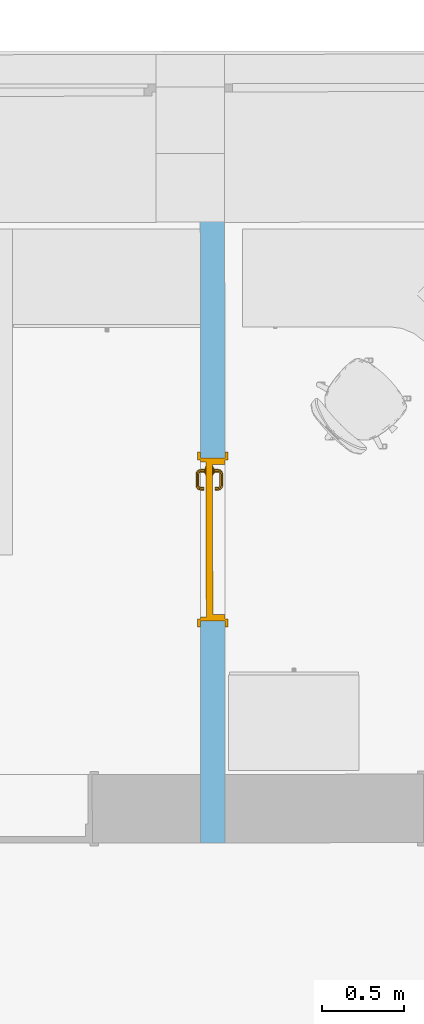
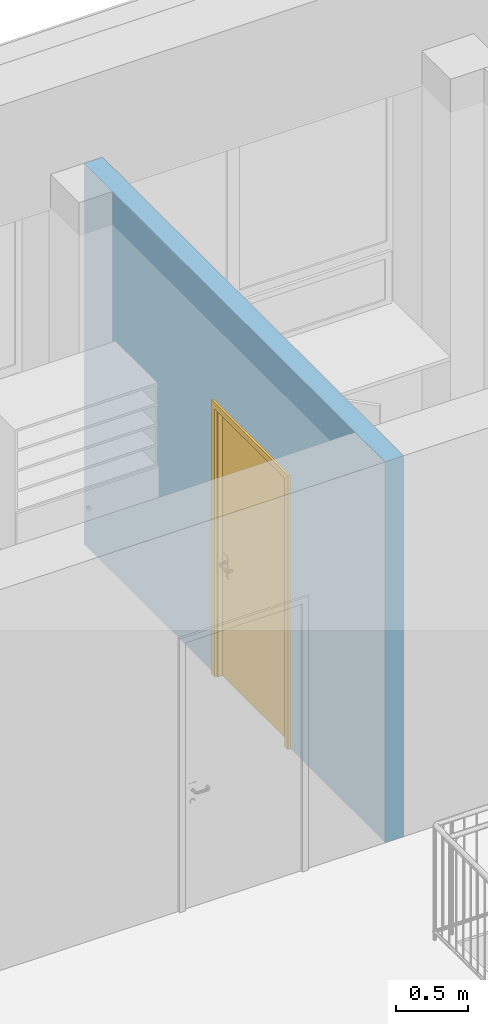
# One storey, part 53 of 194: 1 door, 1 opening, plus 1 element that does not belong to this part.
"""IFC2X3 building model written with IfcOpenShell, lengths in millimetres."""

import ifcopenshell
import ifcopenshell.guid

model = None  # the IFC model being written
_history = None  # IfcOwnerHistory: only IFC2X3 demands one
_inside = {}  # id of a spatial element -> (the spatial element, [elements in it])
_under = {}  # id of a project, library or spatial element -> (it, [spatial elements below it])
_declared = {}  # id of a project -> (the project, [libraries it declares])
_typed = {}  # id of a type object -> (the type object, [elements of that type])
_made_of = {}  # id of a material, layer set ... -> (it, [elements and type objects made of it])


def new_model(schema):
    """Start an empty IFC model of exactly this schema.

    Asked for "IFC4X3", IfcOpenShell would pick the latest addendum, in which some entities
    have other attributes; the version numbers below select the first issue.
    IFC2X3 requires an IfcOwnerHistory on every rooted entity: one is made here for all.
    """
    global model, _history
    if schema == "IFC4X3":
        model = ifcopenshell.file(schema_version=(4, 3, 0, 0))
    else:
        model = ifcopenshell.file(schema=schema)
    _inside.clear()
    _under.clear()
    _declared.clear()
    _typed.clear()
    _made_of.clear()
    _history = None
    if model.schema == "IFC2X3":
        org = make("IfcOrganization", Name="unknown")
        user = make(
            "IfcPersonAndOrganization",
            ThePerson=make("IfcPerson", FamilyName="unknown"),
            TheOrganization=org,
        )
        app = make(
            "IfcApplication",
            ApplicationDeveloper=org,
            Version="unknown",
            ApplicationFullName="unknown",
            ApplicationIdentifier="unknown",
        )
        _history = make(
            "IfcOwnerHistory",
            OwningUser=user,
            OwningApplication=app,
            ChangeAction="ADDED",
            CreationDate=0,
        )
    return model


def make(cls, **values):
    """One entity of the class cls with the attributes given. An attribute that is None is left unset."""
    return model.create_entity(
        cls, **{name: value for name, value in values.items() if value is not None}
    )


def entity(cls, *values):
    """Any entity or typed value of the class cls, its attributes in the order of the schema. None: left unset."""
    e = model.create_entity(cls)
    for i, value in enumerate(values):
        if value is not None:
            e[i] = value
    return e


def rooted(cls, **values):
    """An entity with a GlobalId (a new one), such as an element, a storey or a relation."""
    return make(cls, GlobalId=ifcopenshell.guid.new(), OwnerHistory=_history, **values)


def si_unit(unit_type, name, prefix=None):
    """IfcSIUnit, for example si_unit("LENGTHUNIT", "METRE", prefix="MILLI")."""
    return make("IfcSIUnit", UnitType=unit_type, Prefix=prefix, Name=name)


def converted_unit(unit_type, name, factor, base, dimensions=None, offset=None):
    """IfcConversionBasedUnit, such as the inch: factor (a typed value) times the base unit."""
    return make(
        "IfcConversionBasedUnit"
        if offset is None
        else "IfcConversionBasedUnitWithOffset",
        ConversionOffset=offset,
        Dimensions=None
        if dimensions is None
        else entity("IfcDimensionalExponents", *dimensions),
        UnitType=unit_type,
        Name=name,
        ConversionFactor=make(
            "IfcMeasureWithUnit", ValueComponent=factor, UnitComponent=base
        ),
    )


def derived_unit(unit_type, elements):
    """IfcDerivedUnit: a product of units, each with its exponent."""
    return make(
        "IfcDerivedUnit",
        Elements=[
            make("IfcDerivedUnitElement", Unit=unit, Exponent=power)
            for unit, power in elements
        ],
        UnitType=unit_type,
    )


def money_unit(currency):
    """IfcMonetaryUnit."""
    return make("IfcMonetaryUnit", Currency=currency)


def assignment(units):
    """IfcUnitAssignment: the units of a project."""
    return None if units is None else make("IfcUnitAssignment", Units=units)


def point(xyz):
    """IfcCartesianPoint."""
    return None if xyz is None else make("IfcCartesianPoint", Coordinates=xyz)


def direction(xyz):
    """IfcDirection."""
    return None if xyz is None else make("IfcDirection", DirectionRatios=xyz)


def frame(location, z_axis=None, x_axis=None):
    """IfcAxis2Placement3D, a coordinate frame: its origin and axes. An axis left out is left unset."""
    return make(
        "IfcAxis2Placement3D",
        Location=point(location),
        Axis=direction(z_axis),
        RefDirection=direction(x_axis),
    )


def frame_2d(location, x_axis=None):
    """IfcAxis2Placement2D, a coordinate frame in the plane: its origin and x axis."""
    return make(
        "IfcAxis2Placement2D", Location=point(location), RefDirection=direction(x_axis)
    )


def origin_with_axes():
    """The frame at (0, 0, 0) with the z axis (0, 0, 1) and the x axis (1, 0, 0) written out."""
    return frame((0.0, 0.0, 0.0), z_axis=(0.0, 0.0, 1.0), x_axis=(1.0, 0.0, 0.0))


def origin_2d_with_axis():
    """The frame at (0, 0) in the plane with the x axis (1, 0) written out."""
    return frame_2d((0.0, 0.0), x_axis=(1.0, 0.0))


def place(relative_to, where):
    """IfcLocalPlacement: puts the frame where relative to a parent placement (None: the world)."""
    return make(
        "IfcLocalPlacement", PlacementRelTo=relative_to, RelativePlacement=where
    )


def context(
    kind, dimensions, precision=None, world=None, true_north=None, identifier=None
):
    """IfcGeometricRepresentationContext, for example the 3D "Model" context."""
    return make(
        "IfcGeometricRepresentationContext",
        ContextIdentifier=identifier,
        ContextType=kind,
        CoordinateSpaceDimension=dimensions,
        Precision=precision,
        WorldCoordinateSystem=world,
        TrueNorth=true_north,
    )


def subcontext(parent, identifier, kind, view, scale=None):
    """IfcGeometricRepresentationSubContext, for example "Body" below "Model"."""
    return make(
        "IfcGeometricRepresentationSubContext",
        ContextIdentifier=identifier,
        ContextType=kind,
        ParentContext=parent,
        TargetScale=scale,
        TargetView=view,
    )


def project(units=None, contexts=None):
    """IfcProject with its units and contexts."""
    return rooted(
        "IfcProject",
        Name="project",
        RepresentationContexts=contexts,
        UnitsInContext=assignment(units),
    )


def spatial(cls, under=None, at=None, **own):
    """A site, building, storey or space (cls), placed at a placement, below another one or the project."""
    s = rooted(cls, ObjectPlacement=at, **own)
    if under is not None:
        _under.setdefault(under.id(), (under, []))[1].append(s)
    return s


def polyline(points):
    """IfcPolyline through the points."""
    return make("IfcPolyline", Points=[point(p) for p in points])


def profile(cls, at=None, kind="AREA", **sizes):
    """A parametric profile (cls). Its sizes go by their IFC names, for example OverallWidth=200.0."""
    return make(cls, ProfileType=kind, Position=at, **sizes)


def rectangle(**sizes):
    """IfcRectangleProfileDef."""
    return profile("IfcRectangleProfileDef", **sizes)


def outline(outer, holes=None, kind="AREA"):
    """IfcArbitraryClosedProfileDef: a profile drawn as a closed curve; with holes, ...WithVoids."""
    if holes is None:
        return make("IfcArbitraryClosedProfileDef", ProfileType=kind, OuterCurve=outer)
    return make(
        "IfcArbitraryProfileDefWithVoids",
        ProfileType=kind,
        OuterCurve=outer,
        InnerCurves=holes,
    )


def extrude(swept, where, along, depth):
    """IfcExtrudedAreaSolid: the profile swept, set in the frame where, extruded along a direction by depth."""
    return make(
        "IfcExtrudedAreaSolid",
        SweptArea=swept,
        Position=where,
        ExtrudedDirection=direction(along),
        Depth=depth,
    )


def faces_of(points, faces, orient=None, outer=None):
    """IfcFace entities. A face is a list of loops; a loop is a list of indices into points, from 0.

    orient and outer hold one flag for each loop. By default every Orientation is true, the
    first loop of a face is its IfcFaceOuterBound and the others are IfcFaceBound.
    """
    made = []
    for i, loops in enumerate(faces):
        bounds = []
        for j, loop in enumerate(loops):
            is_outer = j == 0 if outer is None else outer[i][j]
            bounds.append(
                make(
                    "IfcFaceOuterBound" if is_outer else "IfcFaceBound",
                    Bound=make("IfcPolyLoop", Polygon=[points[k] for k in loop]),
                    Orientation=True if orient is None else orient[i][j],
                )
            )
        made.append(make("IfcFace", Bounds=bounds))
    return made


def open_shell(faces, orient=None, outer=None):
    """The faces of one IfcOpenShell. surface_model builds it on its shared points."""
    return ("IfcOpenShell", faces, orient, outer)


def faceted_brep(points, faces, orient=None, outer=None, voids=None):
    """IfcFacetedBrep: a solid bounded by flat faces; with voids (closed shells), ...WithVoids."""
    shared = [point(p) for p in points]
    hull = make("IfcClosedShell", CfsFaces=faces_of(shared, faces, orient, outer))
    if voids is None:
        return make("IfcFacetedBrep", Outer=hull)
    return make(
        "IfcFacetedBrepWithVoids",
        Outer=hull,
        Voids=[
            make(cls, CfsFaces=faces_of(shared, fs, o, b)) for cls, fs, o, b in voids
        ],
    )


def surface_model(cls, points, shells):
    """IfcFaceBasedSurfaceModel or IfcShellBasedSurfaceModel (cls): surfaces that need not close."""
    shared = [point(p) for p in points]
    made = [make(c, CfsFaces=faces_of(shared, fs, o, b)) for c, fs, o, b in shells]
    if cls == "IfcFaceBasedSurfaceModel":
        return make(cls, FbsmFaces=made)
    return make(cls, SbsmBoundary=made)


def shape(context_of_items, identifier, shape_type, items):
    """IfcShapeRepresentation: the items that make up one representation, for example the "Body"."""
    return make(
        "IfcShapeRepresentation",
        ContextOfItems=context_of_items,
        RepresentationIdentifier=identifier,
        RepresentationType=shape_type,
        Items=items,
    )


def material(Name=None, Category=None):
    """IfcMaterial."""
    return make("IfcMaterial", Name=Name, Category=Category)


def layer(
    of_material, thickness, ventilated=None, Name=None, Category=None, Priority=None
):
    """IfcMaterialLayer: one layer of a wall or slab, of a material (None: an air gap)."""
    return make(
        "IfcMaterialLayer",
        Material=of_material,
        LayerThickness=thickness,
        IsVentilated=ventilated,
        Name=Name,
        Category=Category,
        Priority=Priority,
    )


def layer_set(layers, Name=None):
    """IfcMaterialLayerSet."""
    return make("IfcMaterialLayerSet", MaterialLayers=layers, LayerSetName=Name)


def layer_usage(for_layer_set, set_direction, sense, offset, extent=None):
    """IfcMaterialLayerSetUsage: how a layer set lies in its element."""
    return make(
        "IfcMaterialLayerSetUsage",
        ForLayerSet=for_layer_set,
        LayerSetDirection=set_direction,
        DirectionSense=sense,
        OffsetFromReferenceLine=offset,
        ReferenceExtent=extent,
    )


def made_of(thing, what):
    """Note that an element or type object is made of a material, layer set ...; save() writes the relation."""
    if what is not None:
        _made_of.setdefault(what.id(), (what, []))[1].append(thing)
    return thing


def type_object(cls, material=None, **own):
    """A type object (cls), such as IfcWallType, which elements share."""
    return made_of(rooted(cls, **own), material)


def element(
    cls,
    number,
    at=None,
    inside=None,
    cuts=None,
    type_object=None,
    material=None,
    context=None,
    identifier="Body",
    shape_type=None,
    held_by="IfcProductDefinitionShape",
    body=None,
    shapes=None,
    **own,
):
    """One element of the class cls, such as IfcWall. Its Tag is "e" and its number.

    at: its placement. inside: the storey or other place that contains it. cuts: it is an
    opening in that element (IfcRelVoidsElement). A single representation is given by context,
    identifier, shape_type and body (its items); several are given by shapes. held_by: the class
    of the entity that holds the representations. save() writes the other relations.
    """
    e = rooted(cls, Tag="e%d" % number, ObjectPlacement=at, **own)
    if body is not None:
        shapes = [shape(context, identifier, shape_type, body)]
    if shapes is not None:
        e.Representation = make(held_by, Representations=shapes)
    if inside is not None:
        _inside.setdefault(inside.id(), (inside, []))[1].append(e)
    if cuts is not None:
        rooted(
            "IfcRelVoidsElement", RelatingBuildingElement=cuts, RelatedOpeningElement=e
        )
    if type_object is not None:
        _typed.setdefault(type_object.id(), (type_object, []))[1].append(e)
    return made_of(e, material)


def fill(opening, filler):
    """IfcRelFillsElement: the door or window that sits in an opening."""
    return rooted(
        "IfcRelFillsElement",
        RelatingOpeningElement=opening,
        RelatedBuildingElement=filler,
    )


def aggregate(whole, parts):
    """IfcRelAggregates: a whole, such as a stair, and the parts it consists of."""
    return rooted("IfcRelAggregates", RelatingObject=whole, RelatedObjects=parts)


def save(model, path):
    """Write the relations noted so far, then the file.

    IfcRelAggregates (storeys below a building ...), IfcRelContainedInSpatialStructure (elements
    in a storey), IfcRelDefinesByType, IfcRelAssociatesMaterial and IfcRelDeclares: one each for
    every whole, place, type object, material and project.
    """
    for whole, parts in _under.values():
        aggregate(whole, parts)
    for where, things in _inside.values():
        rooted(
            "IfcRelContainedInSpatialStructure",
            RelatedElements=things,
            RelatingStructure=where,
        )
    for kind, things in _typed.values():
        rooted("IfcRelDefinesByType", RelatedObjects=things, RelatingType=kind)
    for what, things in _made_of.values():
        rooted("IfcRelAssociatesMaterial", RelatedObjects=things, RelatingMaterial=what)
    for by, libraries in _declared.values():
        rooted("IfcRelDeclares", RelatingContext=by, RelatedDefinitions=libraries)
    model.write(path)


model = new_model("IFC2X3")

# Units and contexts
model_context = context("Model", 3, precision=1e-05, world=origin_with_axes(), true_north=direction((0.0, 1.0)))
body_context = subcontext(model_context, "Body", "Model", "MODEL_VIEW")
ifc_project = project(units=[si_unit("LENGTHUNIT", "METRE", prefix="MILLI"), si_unit("AREAUNIT", "SQUARE_METRE"), si_unit("VOLUMEUNIT", "CUBIC_METRE"), converted_unit("PLANEANGLEUNIT", "DEGREE", entity("IfcPlaneAngleMeasure", 0.0174532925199), si_unit("PLANEANGLEUNIT", "RADIAN"), dimensions=[0, 0, 0, 0, 0, 0, 0]), si_unit("SOLIDANGLEUNIT", "STERADIAN"), money_unit("EUR"), converted_unit("TIMEUNIT", "Year", entity("IfcTimeMeasure", 31556926.0), si_unit("TIMEUNIT", "SECOND"), dimensions=[0, 0, 1, 0, 0, 0, 0]), si_unit("MASSUNIT", "GRAM", prefix="KILO"), si_unit("THERMODYNAMICTEMPERATUREUNIT", "DEGREE_CELSIUS"), si_unit("LUMINOUSINTENSITYUNIT", "LUMEN"), si_unit("ENERGYUNIT", "JOULE", prefix="MEGA"), derived_unit("THERMALCONDUCTANCEUNIT", [(si_unit("POWERUNIT", "WATT"), 1), (si_unit("LENGTHUNIT", "METRE"), -1), (si_unit("THERMODYNAMICTEMPERATUREUNIT", "KELVIN"), -1)]), derived_unit("SPECIFICHEATCAPACITYUNIT", [(si_unit("ENERGYUNIT", "JOULE"), 1), (si_unit("MASSUNIT", "GRAM", prefix="KILO"), -1), (si_unit("THERMODYNAMICTEMPERATUREUNIT", "KELVIN"), -1)]), derived_unit("MASSDENSITYUNIT", [(si_unit("MASSUNIT", "GRAM", prefix="KILO"), 1), (si_unit("VOLUMEUNIT", "CUBIC_METRE"), -1)])], contexts=[model_context])

# Site, building, storey
site_placement = place(None, origin_with_axes())
site = spatial("IfcSite", under=ifc_project, at=site_placement, Name="Site", CompositionType="ELEMENT")
building_placement = place(site_placement, origin_with_axes())
building = spatial("IfcBuilding", under=site, at=building_placement, Name="Building", CompositionType="ELEMENT")
storey_placement = place(building_placement, frame((0.0, 0.0, 3000.0), z_axis=(0.0, 0.0, 1.0), x_axis=(1.0, 0.0, 0.0)))
storey = spatial("IfcBuildingStorey", under=building, at=storey_placement, Name="2 KORRUS", CompositionType="ELEMENT", Elevation=3000.0)

# Wall, opening, door
ifc_material = material(Name="Kivi -Ol.Olev Konstruktsioon")
ifc_layer = layer(ifc_material, 150.0, ventilated="UNKNOWN")
ifc_layer_set = layer_set([ifc_layer], Name="ol.olev ss 150")
ifc_layer_usage = layer_usage(ifc_layer_set, "AXIS2", "POSITIVE", -150.0)
wall_type = type_object("IfcWallType", Name="SW - 022", PredefinedType="NOTDEFINED")
wall_placement = place(storey_placement, frame((25153.7376611, 47300.7191622, 0.0), z_axis=(0.0, 0.0, 1.0), x_axis=(0.000797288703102, -0.999999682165, 0.0)))
wall = element("IfcWallStandardCase", 1, at=wall_placement, inside=storey, type_object=wall_type, material=ifc_layer_usage, Name="ol.olev ss 150", context=body_context, shape_type="SweptSolid", body=[
    extrude(outline(polyline([(430.121237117, -150.0), (4634.98322566, -150.0), (4634.98322566, 0.0), (430.000140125, 1.13686837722e-10), (430.121237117, -150.0)])), origin_with_axes(), (0.0, 0.0, 1.0), 3250.0),
])
opening_placement = place(wall_placement, frame((2775.60504922, 1.13686837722e-10, 0.0), z_axis=(0.0, 0.0, 1.0), x_axis=(1.0, 0.0, 0.0)))
opening = element("IfcOpeningElement", 2, at=opening_placement, cuts=wall, Name="Siseuks * Door 22", context=body_context, shape_type="SweptSolid", body=[
    extrude(rectangle(XDim=1000.0, YDim=2300.0, at=origin_2d_with_axis()), frame((-9.09494701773e-10, -150.0, 1150.0), z_axis=(0.0, -1.0, 0.0), x_axis=(1.0, 0.0, 0.0)), (0.0, 0.0, -1.0), 450.0),
    extrude(rectangle(XDim=1074.0, YDim=2337.0, at=origin_2d_with_axis()), frame((0.0, -150.0, 1168.5), z_axis=(0.0, -1.0, 0.0), x_axis=(1.0, 0.0, 0.0)), (0.0, 0.0, 1.0), 150.0),
    extrude(rectangle(XDim=1074.0, YDim=2337.0, at=origin_2d_with_axis()), frame((0.0, 0.0, 1168.5), z_axis=(0.0, 1.0, 0.0), x_axis=(1.0, 0.0, 0.0)), (0.0, 0.0, 1.0), 150.0),
])
door_style = type_object("IfcDoorStyle", Name="SU-B207A   1\xa0000×2\xa0300", ConstructionType="NOTDEFINED", OperationType="SINGLE_SWING_LEFT", ParameterTakesPrecedence=False, Sizeable=False)
door_placement = place(opening_placement, frame((499.999999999, -2.27373675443e-10, 0.0), z_axis=(0.0, 0.0, 1.0), x_axis=(-1.0, 0.0, 0.0)))
door = element("IfcDoor", 3, at=door_placement, inside=storey, type_object=door_style, Name="Siseuks * Door 22", OverallHeight=2300.0, OverallWidth=1000.0, context=body_context, shape_type="SurfaceModel", body=[
    faceted_brep([(1000.0, 115.0, 0.0), (975.000000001, 115.0, 0.0), (975.0, 150.0, 0.0), (1000.0, 150.0, 0.0), (1000.0, 115.0, 2300.0), (975.000000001, 115.0, 2275.0), (975.0, 150.0, 2275.0), (1000.0, 150.0, 2300.0)], [[[0, 1, 2, 3]], [[0, 4, 5, 1]], [[1, 5, 6, 2]], [[3, 2, 6, 7]], [[4, 0, 3, 7]], [[5, 4, 7, 6]]]),
    faceted_brep([(0.0, 115.0, 2300.0), (24.9999999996, 115.0, 2275.0), (24.9999999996, 150.0, 2275.0), (0.0, 150.0, 2300.0), (0.0, 115.0, 0.0), (24.9999999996, 115.0, 0.0), (24.9999999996, 150.0, 0.0), (0.0, 150.0, 0.0)], [[[0, 1, 2, 3]], [[0, 4, 5, 1]], [[1, 5, 6, 2]], [[3, 2, 6, 7]], [[4, 0, 3, 7]], [[5, 4, 7, 6]]]),
    faceted_brep([(975.000000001, 115.0, 2275.0), (24.9999999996, 115.0, 2275.0), (24.9999999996, 150.0, 2275.0), (975.0, 150.0, 2275.0), (1000.0, 115.0, 2300.0), (0.0, 115.0, 2300.0), (0.0, 150.0, 2300.0), (1000.0, 150.0, 2300.0)], [[[0, 1, 2, 3]], [[0, 4, 5, 1]], [[1, 5, 6, 2]], [[3, 2, 6, 7]], [[4, 0, 3, 7]], [[5, 4, 7, 6]]]),
    faceted_brep([(1037.0, 169.0, 0.0), (1037.0, 150.0, 0.0), (987.0, 150.0, 0.0), (987.000000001, 169.0, 0.0), (1037.0, 169.0, 2337.0), (1037.0, 150.0, 2337.0), (987.0, 150.0, 2287.0), (987.000000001, 169.0, 2287.0)], [[[0, 1, 2, 3]], [[4, 5, 1, 0]], [[1, 5, 6, 2]], [[3, 2, 6, 7]], [[0, 3, 7, 4]], [[7, 6, 5, 4]]]),
    faceted_brep([(-36.9999999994, 169.0, 2337.0), (-36.9999999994, 150.0, 2337.0), (13.0000000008, 150.0, 2287.0), (13.0000000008, 169.0, 2287.0), (-36.9999999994, 169.0, 0.0), (-36.9999999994, 150.0, 0.0), (13.0000000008, 150.0, 0.0), (13.0000000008, 169.0, 0.0)], [[[0, 1, 2, 3]], [[4, 5, 1, 0]], [[1, 5, 6, 2]], [[3, 2, 6, 7]], [[0, 3, 7, 4]], [[7, 6, 5, 4]]]),
    faceted_brep([(1037.0, 169.0, 2337.0), (1037.0, 150.0, 2337.0), (987.0, 150.0, 2287.0), (987.000000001, 169.0, 2287.0), (-36.9999999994, 169.0, 2337.0), (-36.9999999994, 150.0, 2337.0), (13.0000000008, 150.0, 2287.0), (13.0000000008, 169.0, 2287.0)], [[[0, 1, 2, 3]], [[4, 5, 1, 0]], [[1, 5, 6, 2]], [[3, 2, 6, 7]], [[0, 3, 7, 4]], [[7, 6, 5, 4]]]),
    faceted_brep([(1037.0, -18.9999999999, 0.0), (987.0, -19.0, 0.0), (987.0, 0.0, 0.0), (1037.0, -1.13686837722e-10, 0.0), (1037.0, -18.9999999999, 2337.0), (987.0, -19.0, 2287.0), (987.0, 0.0, 2287.0), (1037.0, -1.13686837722e-10, 2337.0)], [[[0, 1, 2, 3]], [[0, 4, 5, 1]], [[1, 5, 6, 2]], [[3, 2, 6, 7]], [[4, 0, 3, 7]], [[5, 4, 7, 6]]]),
    faceted_brep([(-36.9999999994, -19.0, 2337.0), (13.0000000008, -19.0000000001, 2287.0), (13.0000000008, 0.0, 2287.0), (-36.9999999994, 0.0, 2337.0), (-36.9999999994, -19.0, 0.0), (13.0000000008, -19.0000000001, 0.0), (13.0000000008, 0.0, 0.0), (-36.9999999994, 0.0, 0.0)], [[[0, 1, 2, 3]], [[0, 4, 5, 1]], [[1, 5, 6, 2]], [[3, 2, 6, 7]], [[4, 0, 3, 7]], [[5, 4, 7, 6]]]),
    faceted_brep([(1037.0, -18.9999999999, 2337.0), (987.0, -19.0, 2287.0), (987.0, 0.0, 2287.0), (1037.0, -1.13686837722e-10, 2337.0), (-36.9999999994, -19.0, 2337.0), (13.0000000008, -19.0000000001, 2287.0), (13.0000000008, 0.0, 2287.0), (-36.9999999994, 0.0, 2337.0)], [[[0, 1, 2, 3]], [[0, 4, 5, 1]], [[1, 5, 6, 2]], [[3, 2, 6, 7]], [[4, 0, 3, 7]], [[5, 4, 7, 6]]]),
    faceted_brep([(960.0, 74.9999999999, 0.0), (960.000000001, 0.0, 0.0), (960.000000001, 0.0, 2260.0), (960.0, 74.9999999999, 2260.0), (972.000000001, 75.0, 0.0), (972.000000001, 115.0, 0.0), (1000.0, 115.0, 0.0), (1000.0, 0.0, 0.0), (1000.0, 0.0, 2260.0), (972.000000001, 75.0, 2260.0), (1000.0, 115.0, 2260.0), (972.000000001, 115.0, 2260.0)], [[[0, 1, 2, 3]], [[4, 5, 6, 7, 1, 0]], [[1, 7, 8, 2]], [[9, 3, 2, 8, 10, 11]], [[9, 4, 0, 3]], [[11, 5, 4, 9]], [[11, 10, 6, 5]], [[6, 10, 8, 7]]]),
    faceted_brep([(28.0000000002, 75.0, 2260.0), (28.0000000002, 115.0, 2260.0), (0.0, 115.0, 2260.0), (0.0, 0.0, 2260.0), (40.0, 0.0, 2260.0), (40.0, 75.0, 2260.0), (28.0000000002, 75.0, 0.0), (28.0000000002, 115.0, 0.0), (0.0, 115.0, 0.0), (0.0, 0.0, 0.0), (40.0, 0.0, 0.0), (40.0, 75.0, 0.0)], [[[0, 1, 2, 3, 4, 5]], [[0, 6, 7, 1]], [[7, 8, 2, 1]], [[2, 8, 9, 3]], [[3, 9, 10, 4]], [[5, 4, 10, 11]], [[5, 11, 6, 0]], [[6, 11, 10, 9, 8, 7]]]),
    faceted_brep([(972.000000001, 115.0, 2272.0), (28.0000000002, 115.0, 2272.0), (28.0000000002, 115.0, 2260.0), (0.0, 115.0, 2260.0), (0.0, 115.0, 2300.0), (1000.0, 115.0, 2300.0), (1000.0, 115.0, 2260.0), (972.000000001, 115.0, 2260.0), (972.000000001, 75.0, 2272.0), (28.0000000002, 75.0, 2272.0), (28.0000000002, 75.0, 2260.0), (40.0, 75.0, 2260.0), (40.0, 0.0, 2260.0), (0.0, 0.0, 2260.0), (0.0, 0.0, 2300.0), (1000.0, 0.0, 2300.0), (1000.0, 0.0, 2260.0), (972.000000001, 75.0, 2260.0), (960.000000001, 0.0, 2260.0), (960.0, 74.9999999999, 2260.0)], [[[0, 1, 2, 3, 4, 5, 6, 7]], [[0, 8, 9, 1]], [[1, 9, 10, 2]], [[10, 11, 12, 13, 3, 2]], [[4, 3, 13, 14]], [[5, 4, 14, 15]], [[6, 5, 15, 16]], [[17, 7, 6, 16, 18, 19]], [[7, 17, 8, 0]], [[10, 9, 8, 17, 19, 11]], [[19, 18, 12, 11]], [[12, 18, 16, 15, 14, 13]]]),
    faceted_brep([(950.5, 75.0, 1060.0), (893.5, 75.0, 1060.0), (893.500000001, 72.0, 1060.0), (950.5, 72.0, 1060.0), (950.5, 75.0, 870.0), (893.5, 75.0, 870.0), (893.500000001, 72.0, 870.0), (950.5, 72.0, 870.0)], [[[0, 1, 2, 3]], [[0, 4, 5, 1]], [[1, 5, 6, 2]], [[3, 2, 6, 7]], [[4, 0, 3, 7]], [[5, 4, 7, 6]]]),
    surface_model("IfcShellBasedSurfaceModel", [(912.000000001, 62.0, 1000.0), (914.928932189, 62.0, 992.928932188), (914.928932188, 42.6964393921, 992.928932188), (912.0, 42.9849140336, 1000.0), (922.0, 62.0, 990.0), (922.0, 42.0, 990.0), (913.816790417, 37.1053251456, 992.928932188), (911.057796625, 38.2481377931, 1000.0), (914.928932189, 62.0, 1007.07106781), (914.928932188, 42.6964393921, 1007.07106781), (929.071067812, 61.9999999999, 992.928932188), (929.071067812, 41.303560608, 992.928932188), (920.477590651, 34.3463313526, 990.0), (911.044179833, 32.9558201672, 992.928932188), (908.932537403, 35.0674625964, 1000.0), (913.816790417, 37.1053251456, 1007.07106781), (922.0, 62.0, 1010.0), (922.0, 42.0, 1010.0), (932.000000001, 62.0, 1000.0), (932.0, 41.0150859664, 1000.0), (927.138390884, 31.5873375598, 992.928932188), (916.142135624, 27.8578643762, 990.0), (906.894674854, 30.1832095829, 992.928932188), (905.751862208, 32.9422033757, 1000.0), (911.044179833, 32.9558201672, 1007.07106781), (920.477590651, 34.3463313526, 1010.0), (929.071067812, 61.9999999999, 1007.07106781), (929.071067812, 41.303560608, 1007.07106781), (929.897384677, 30.4445249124, 1000.0), (921.240091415, 22.7599085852, 992.928932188), (909.653668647, 23.5224093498, 990.0), (901.303560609, 29.0710678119, 992.928932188), (901.015085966, 31.9999999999, 1000.0), (906.894674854, 30.1832095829, 1007.07106781), (916.142135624, 27.8578643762, 1010.0), (927.138390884, 31.5873375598, 1007.07106781), (923.351733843, 20.6482661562, 1000.0), (912.41266244, 16.8616091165, 992.928932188), (902.0, 21.9999999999, 990.0), (832.696439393, 29.0710678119, 992.928932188), (832.984914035, 32.0, 1000.0), (901.303560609, 29.0710678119, 1007.07106781), (909.653668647, 23.5224093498, 1010.0), (921.240091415, 22.7599085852, 1007.07106781), (913.555475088, 14.1026153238, 1000.0), (902.696439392, 14.9289321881, 992.928932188), (832.000000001, 22.0, 990.0), (827.105325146, 30.1832095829, 992.928932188), (828.248137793, 32.9422033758, 1000.0), (832.696439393, 29.0710678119, 1007.07106781), (902.0, 21.9999999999, 1010.0), (912.41266244, 16.8616091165, 1007.07106781), (902.984914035, 12.0000000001, 1000.0), (831.303560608, 14.928932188, 992.928932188), (824.346331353, 23.5224093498, 990.0), (822.955820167, 32.9558201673, 992.928932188), (825.067462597, 35.0674625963, 1000.0), (827.105325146, 30.1832095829, 1007.07106781), (832.000000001, 22.0, 1010.0), (902.696439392, 14.9289321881, 1007.07106781), (831.015085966, 11.9999999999, 1000.0), (821.58733756, 16.8616091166, 992.928932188), (817.857864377, 27.8578643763, 990.0), (820.183209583, 37.1053251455, 992.928932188), (822.942203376, 38.2481377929, 1000.0), (822.955820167, 32.9558201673, 1007.07106781), (824.346331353, 23.5224093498, 1010.0), (831.303560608, 14.928932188, 1007.07106781), (820.444524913, 14.1026153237, 1000.0), (812.759908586, 22.7599085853, 992.928932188), (813.52240935, 34.3463313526, 990.0), (819.071067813, 42.6964393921, 992.928932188), (822.0, 42.9849140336, 1000.0), (820.183209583, 37.1053251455, 1007.07106781), (817.857864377, 27.8578643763, 1010.0), (821.58733756, 16.8616091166, 1007.07106781), (810.648266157, 20.6482661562, 1000.0), (806.861609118, 31.5873375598, 992.928932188), (812.000000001, 41.9999999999, 990.0), (819.071067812, 62.0, 992.928932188), (822.0, 62.0, 1000.0), (819.071067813, 42.6964393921, 1007.07106781), (813.52240935, 34.3463313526, 1010.0), (812.759908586, 22.7599085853, 1007.07106781), (804.102615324, 30.4445249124, 1000.0), (804.928932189, 41.303560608, 992.928932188), (812.0, 61.9999999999, 990.0), (804.928932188, 61.9999999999, 992.928932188), (802.000000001, 62.0, 1000.0), (804.928932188, 61.9999999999, 1007.07106781), (812.0, 61.9999999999, 1010.0), (819.071067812, 62.0, 1007.07106781), (812.000000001, 41.9999999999, 1010.0), (806.861609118, 31.5873375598, 1007.07106781), (802.000000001, 41.0150859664, 1000.0), (804.928932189, 41.303560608, 1007.07106781)], [open_shell([[[0, 1, 2, 3]], [[1, 4, 5, 2]], [[3, 2, 6, 7]], [[8, 0, 3, 9]], [[4, 10, 11, 5]], [[2, 5, 12, 6]], [[7, 6, 13, 14]], [[9, 3, 7, 15]], [[16, 8, 9, 17]], [[10, 18, 19, 11]], [[5, 11, 20, 12]], [[6, 12, 21, 13]], [[14, 13, 22, 23]], [[15, 7, 14, 24]], [[17, 9, 15, 25]], [[26, 16, 17, 27]], [[18, 26, 27, 19]], [[11, 19, 28, 20]], [[12, 20, 29, 21]], [[13, 21, 30, 22]], [[23, 22, 31, 32]], [[24, 14, 23, 33]], [[25, 15, 24, 34]], [[27, 17, 25, 35]], [[19, 27, 35, 28]], [[20, 28, 36, 29]], [[21, 29, 37, 30]], [[22, 30, 38, 31]], [[32, 31, 39, 40]], [[33, 23, 32, 41]], [[34, 24, 33, 42]], [[35, 25, 34, 43]], [[28, 35, 43, 36]], [[29, 36, 44, 37]], [[30, 37, 45, 38]], [[31, 38, 46, 39]], [[40, 39, 47, 48]], [[41, 32, 40, 49]], [[42, 33, 41, 50]], [[43, 34, 42, 51]], [[36, 43, 51, 44]], [[37, 44, 52, 45]], [[38, 45, 53, 46]], [[39, 46, 54, 47]], [[48, 47, 55, 56]], [[49, 40, 48, 57]], [[50, 41, 49, 58]], [[51, 42, 50, 59]], [[44, 51, 59, 52]], [[45, 52, 60, 53]], [[46, 53, 61, 54]], [[47, 54, 62, 55]], [[56, 55, 63, 64]], [[57, 48, 56, 65]], [[58, 49, 57, 66]], [[59, 50, 58, 67]], [[52, 59, 67, 60]], [[53, 60, 68, 61]], [[54, 61, 69, 62]], [[55, 62, 70, 63]], [[64, 63, 71, 72]], [[65, 56, 64, 73]], [[66, 57, 65, 74]], [[67, 58, 66, 75]], [[60, 67, 75, 68]], [[61, 68, 76, 69]], [[62, 69, 77, 70]], [[63, 70, 78, 71]], [[72, 71, 79, 80]], [[73, 64, 72, 81]], [[74, 65, 73, 82]], [[75, 66, 74, 83]], [[68, 75, 83, 76]], [[69, 76, 84, 77]], [[70, 77, 85, 78]], [[71, 78, 86, 79]], [[80, 79, 86, 87, 88, 89, 90, 91]], [[81, 72, 80, 91]], [[82, 73, 81, 92]], [[83, 74, 82, 93]], [[76, 83, 93, 84]], [[77, 84, 94, 85]], [[78, 85, 87, 86]], [[85, 94, 88, 87]], [[94, 95, 89, 88]], [[95, 92, 90, 89]], [[92, 81, 91, 90]], [[93, 82, 92, 95]], [[84, 93, 95, 94]]])]),
    faceted_brep([(911.607695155, 62.0, 994.0), (910.000000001, 61.9999999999, 1000.0), (909.000000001, 72.0, 1000.0), (910.741669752, 71.9999999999, 993.5), (916.0, 62.0, 989.607695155), (922.0, 62.0, 988.0), (928.000000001, 62.0, 989.607695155), (932.392304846, 62.0, 994.0), (934.0, 61.9999999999, 1000.0), (932.392304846, 62.0, 1006.0), (928.000000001, 62.0, 1010.39230485), (922.0, 62.0, 1012.0), (916.0, 62.0, 1010.39230485), (911.607695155, 62.0, 1006.0), (910.741669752, 71.9999999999, 1006.5), (915.500000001, 72.0, 1011.25833025), (922.0, 72.0, 1013.0), (928.500000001, 72.0, 1011.25833025), (933.25833025, 72.0, 1006.5), (935.0, 71.9999999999, 1000.0), (933.25833025, 72.0, 993.5), (928.500000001, 72.0, 988.741669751), (922.0, 72.0, 987.0), (915.500000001, 72.0, 988.741669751)], [[[0, 1, 2, 3]], [[1, 0, 4, 5, 6, 7, 8, 9, 10, 11, 12, 13]], [[1, 13, 14, 2]], [[2, 14, 15, 16, 17, 18, 19, 20, 21, 22, 23, 3]], [[4, 0, 3, 23]], [[5, 4, 23, 22]], [[6, 5, 22, 21]], [[7, 6, 21, 20]], [[8, 7, 20, 19]], [[9, 8, 19, 18]], [[10, 9, 18, 17]], [[11, 10, 17, 16]], [[12, 11, 16, 15]], [[13, 12, 15, 14]]]),
    faceted_brep([(904.679491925, 68.0, 895.0), (902.0, 68.0000000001, 905.0), (900.000000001, 72.0, 905.0), (902.947441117, 72.0000000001, 894.0), (912.0, 68.0, 887.679491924), (922.0, 68.0, 885.0), (932.000000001, 68.0000000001, 887.679491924), (939.320508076, 67.9999999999, 895.0), (942.000000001, 68.0, 905.0), (939.320508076, 67.9999999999, 915.0), (932.000000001, 68.0000000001, 922.320508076), (922.0, 68.0, 925.0), (912.0, 68.0, 922.320508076), (904.679491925, 68.0, 915.0), (902.947441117, 72.0000000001, 916.0), (911.0, 72.0, 924.052558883), (922.0, 72.0, 927.0), (933.0, 72.0, 924.052558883), (941.052558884, 72.0, 916.0), (944.0, 72.0, 905.0), (941.052558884, 72.0, 894.0), (933.0, 72.0, 885.947441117), (922.0, 72.0, 883.0), (911.0, 72.0, 885.947441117)], [[[0, 1, 2, 3]], [[1, 0, 4, 5, 6, 7, 8, 9, 10, 11, 12, 13]], [[1, 13, 14, 2]], [[2, 14, 15, 16, 17, 18, 19, 20, 21, 22, 23, 3]], [[4, 0, 3, 23]], [[5, 4, 23, 22]], [[6, 5, 22, 21]], [[7, 6, 21, 20]], [[8, 7, 20, 19]], [[9, 8, 19, 18]], [[10, 9, 18, 17]], [[11, 10, 17, 16]], [[12, 11, 16, 15]], [[13, 12, 15, 14]]]),
    faceted_brep([(917.050252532, 65.9999999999, 909.050252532), (915.000000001, 65.9999999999, 914.0), (914.000000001, 68.0, 914.0), (916.343145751, 68.0, 908.343145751), (922.0, 66.0, 907.0), (926.949747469, 65.9999999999, 909.050252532), (929.0, 66.0, 914.0), (926.949747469, 65.9999999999, 918.949747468), (922.0, 66.0, 921.0), (917.050252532, 65.9999999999, 918.949747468), (916.343145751, 68.0, 919.656854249), (922.0, 68.0, 922.0), (927.65685425, 67.9999999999, 919.656854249), (930.0, 67.9999999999, 914.0), (927.65685425, 67.9999999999, 908.343145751), (922.0, 68.0, 906.0)], [[[0, 1, 2, 3]], [[1, 0, 4, 5, 6, 7, 8, 9]], [[1, 9, 10, 2]], [[2, 10, 11, 12, 13, 14, 15, 3]], [[4, 0, 3, 15]], [[5, 4, 15, 14]], [[6, 5, 14, 13]], [[7, 6, 13, 12]], [[8, 7, 12, 11]], [[9, 8, 11, 10]]]),
    faceted_brep([(950.5, 115.0, 1060.0), (950.5, 118.0, 1060.0), (893.500000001, 118.0, 1060.0), (893.5, 115.0, 1060.0), (950.5, 115.0, 870.0), (950.5, 118.0, 870.0), (893.500000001, 118.0, 870.0), (893.5, 115.0, 870.0)], [[[0, 1, 2, 3]], [[4, 5, 1, 0]], [[1, 5, 6, 2]], [[3, 2, 6, 7]], [[0, 3, 7, 4]], [[7, 6, 5, 4]]]),
    surface_model("IfcShellBasedSurfaceModel", [(911.999999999, 128.0, 1000.0), (912.000000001, 147.015085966, 1000.0), (914.928932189, 147.303560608, 992.928932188), (914.928932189, 128.0, 992.928932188), (914.928932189, 128.0, 1007.07106781), (914.928932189, 147.303560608, 1007.07106781), (911.057796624, 151.751862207, 1000.0), (913.816790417, 152.894674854, 992.928932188), (922.0, 148.0, 990.0), (922.000000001, 128.0, 990.0), (922.000000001, 128.0, 1010.0), (922.0, 148.0, 1010.0), (913.816790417, 152.894674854, 1007.07106781), (908.932537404, 154.932537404, 1000.0), (911.044179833, 157.044179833, 992.928932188), (920.477590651, 155.653668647, 990.0), (929.071067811, 148.696439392, 992.928932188), (929.071067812, 128.0, 992.928932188), (929.071067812, 128.0, 1007.07106781), (929.071067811, 148.696439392, 1007.07106781), (920.477590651, 155.653668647, 1010.0), (911.044179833, 157.044179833, 1007.07106781), (905.751862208, 157.057796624, 1000.0), (906.894674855, 159.816790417, 992.928932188), (916.142135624, 162.142135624, 990.0), (927.138390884, 158.41266244, 992.928932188), (932.0, 148.984914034, 1000.0), (932.000000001, 128.0, 1000.0), (927.138390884, 158.41266244, 1007.07106781), (916.142135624, 162.142135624, 1010.0), (906.894674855, 159.816790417, 1007.07106781), (901.015085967, 158.0, 1000.0), (901.303560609, 160.928932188, 992.928932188), (909.653668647, 166.47759065, 990.0), (921.240091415, 167.240091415, 992.928932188), (929.897384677, 159.555475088, 1000.0), (921.240091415, 167.240091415, 1007.07106781), (909.653668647, 166.47759065, 1010.0), (901.303560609, 160.928932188, 1007.07106781), (832.984914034, 158.0, 1000.0), (832.696439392, 160.928932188, 992.928932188), (902.0, 168.0, 990.0), (912.41266244, 173.138390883, 992.928932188), (923.351733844, 169.351733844, 1000.0), (912.41266244, 173.138390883, 1007.07106781), (902.0, 168.0, 1010.0), (832.696439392, 160.928932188, 1007.07106781), (828.248137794, 157.057796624, 1000.0), (827.105325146, 159.816790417, 992.928932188), (832.0, 168.0, 990.0), (902.696439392, 175.071067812, 992.928932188), (913.555475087, 175.897384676, 1000.0), (902.696439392, 175.071067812, 1007.07106781), (832.0, 168.0, 1010.0), (827.105325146, 159.816790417, 1007.07106781), (825.067462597, 154.932537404, 1000.0), (822.955820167, 157.044179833, 992.928932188), (824.346331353, 166.47759065, 990.0), (831.303560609, 175.071067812, 992.928932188), (902.984914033, 178.0, 1000.0), (831.303560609, 175.071067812, 1007.07106781), (824.346331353, 166.47759065, 1010.0), (822.955820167, 157.044179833, 1007.07106781), (822.942203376, 151.751862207, 1000.0), (820.183209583, 152.894674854, 992.928932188), (817.857864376, 162.142135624, 990.0), (821.58733756, 173.138390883, 992.928932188), (831.015085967, 178.0, 1000.0), (821.58733756, 173.138390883, 1007.07106781), (817.857864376, 162.142135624, 1010.0), (820.183209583, 152.894674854, 1007.07106781), (822.0, 147.015085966, 1000.0), (819.071067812, 147.303560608, 992.928932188), (813.52240935, 155.653668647, 990.0), (812.759908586, 167.240091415, 992.928932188), (820.444524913, 175.897384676, 1000.0), (812.759908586, 167.240091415, 1007.07106781), (813.52240935, 155.653668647, 1010.0), (819.071067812, 147.303560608, 1007.07106781), (822.0, 128.0, 1000.0), (819.071067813, 128.0, 992.928932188), (812.0, 148.0, 990.0), (806.861609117, 158.41266244, 992.928932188), (810.648266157, 169.351733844, 1000.0), (806.861609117, 158.41266244, 1007.07106781), (812.0, 148.0, 1010.0), (819.071067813, 128.0, 1007.07106781), (812.000000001, 128.0, 1010.0), (804.928932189, 128.0, 1007.07106781), (802.0, 128.0, 1000.0), (804.928932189, 128.0, 992.928932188), (812.000000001, 128.0, 990.0), (804.928932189, 148.696439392, 992.928932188), (804.102615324, 159.555475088, 1000.0), (804.928932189, 148.696439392, 1007.07106781), (802.000000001, 148.984914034, 1000.0)], [open_shell([[[0, 1, 2, 3]], [[4, 5, 1, 0]], [[1, 6, 7, 2]], [[3, 2, 8, 9]], [[10, 11, 5, 4]], [[5, 12, 6, 1]], [[6, 13, 14, 7]], [[2, 7, 15, 8]], [[9, 8, 16, 17]], [[18, 19, 11, 10]], [[11, 20, 12, 5]], [[12, 21, 13, 6]], [[13, 22, 23, 14]], [[7, 14, 24, 15]], [[8, 15, 25, 16]], [[17, 16, 26, 27]], [[27, 26, 19, 18]], [[19, 28, 20, 11]], [[20, 29, 21, 12]], [[21, 30, 22, 13]], [[22, 31, 32, 23]], [[14, 23, 33, 24]], [[15, 24, 34, 25]], [[16, 25, 35, 26]], [[26, 35, 28, 19]], [[28, 36, 29, 20]], [[29, 37, 30, 21]], [[30, 38, 31, 22]], [[31, 39, 40, 32]], [[23, 32, 41, 33]], [[24, 33, 42, 34]], [[25, 34, 43, 35]], [[35, 43, 36, 28]], [[36, 44, 37, 29]], [[37, 45, 38, 30]], [[38, 46, 39, 31]], [[39, 47, 48, 40]], [[32, 40, 49, 41]], [[33, 41, 50, 42]], [[34, 42, 51, 43]], [[43, 51, 44, 36]], [[44, 52, 45, 37]], [[45, 53, 46, 38]], [[46, 54, 47, 39]], [[47, 55, 56, 48]], [[40, 48, 57, 49]], [[41, 49, 58, 50]], [[42, 50, 59, 51]], [[51, 59, 52, 44]], [[52, 60, 53, 45]], [[53, 61, 54, 46]], [[54, 62, 55, 47]], [[55, 63, 64, 56]], [[48, 56, 65, 57]], [[49, 57, 66, 58]], [[50, 58, 67, 59]], [[59, 67, 60, 52]], [[60, 68, 61, 53]], [[61, 69, 62, 54]], [[62, 70, 63, 55]], [[63, 71, 72, 64]], [[56, 64, 73, 65]], [[57, 65, 74, 66]], [[58, 66, 75, 67]], [[67, 75, 68, 60]], [[68, 76, 69, 61]], [[69, 77, 70, 62]], [[70, 78, 71, 63]], [[71, 79, 80, 72]], [[64, 72, 81, 73]], [[65, 73, 82, 74]], [[66, 74, 83, 75]], [[75, 83, 76, 68]], [[76, 84, 77, 69]], [[77, 85, 78, 70]], [[78, 86, 79, 71]], [[79, 86, 87, 88, 89, 90, 91, 80]], [[72, 80, 91, 81]], [[73, 81, 92, 82]], [[74, 82, 93, 83]], [[83, 93, 84, 76]], [[84, 94, 85, 77]], [[85, 87, 86, 78]], [[94, 88, 87, 85]], [[95, 89, 88, 94]], [[92, 90, 89, 95]], [[81, 91, 90, 92]], [[82, 92, 95, 93]], [[93, 95, 94, 84]]])]),
    faceted_brep([(911.607695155, 128.0, 994.0), (910.741669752, 118.0, 993.5), (909.0, 118.0, 1000.0), (910.0, 128.0, 1000.0), (916.000000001, 128.0, 989.607695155), (915.5, 118.0, 988.741669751), (922.0, 118.0, 987.0), (928.5, 118.0, 988.741669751), (933.258330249, 118.0, 993.5), (935.0, 118.0, 1000.0), (933.258330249, 118.0, 1006.5), (928.5, 118.0, 1011.25833025), (922.0, 118.0, 1013.0), (915.5, 118.0, 1011.25833025), (910.741669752, 118.0, 1006.5), (911.607695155, 128.0, 1006.0), (916.000000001, 128.0, 1010.39230485), (922.000000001, 128.0, 1012.0), (928.0, 128.0, 1010.39230485), (932.392304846, 128.0, 1006.0), (934.0, 128.0, 1000.0), (932.392304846, 128.0, 994.0), (928.0, 128.0, 989.607695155), (922.000000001, 128.0, 988.0)], [[[0, 1, 2, 3]], [[4, 5, 1, 0]], [[2, 1, 5, 6, 7, 8, 9, 10, 11, 12, 13, 14]], [[3, 2, 14, 15]], [[3, 15, 16, 17, 18, 19, 20, 21, 22, 23, 4, 0]], [[23, 6, 5, 4]], [[22, 7, 6, 23]], [[21, 8, 7, 22]], [[20, 9, 8, 21]], [[19, 10, 9, 20]], [[18, 11, 10, 19]], [[17, 12, 11, 18]], [[16, 13, 12, 17]], [[15, 14, 13, 16]]]),
    faceted_brep([(904.679491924, 122.0, 895.0), (902.947441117, 118.0, 894.0), (900.000000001, 118.0, 905.0), (902.0, 122.0, 905.0), (912.000000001, 122.0, 887.679491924), (911.0, 118.0, 885.947441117), (922.0, 118.0, 883.0), (933.000000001, 118.0, 885.947441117), (941.052558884, 118.0, 894.0), (944.0, 118.0, 905.0), (941.052558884, 118.0, 916.0), (933.000000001, 118.0, 924.052558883), (922.0, 118.0, 927.0), (911.0, 118.0, 924.052558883), (902.947441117, 118.0, 916.0), (904.679491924, 122.0, 915.0), (912.000000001, 122.0, 922.320508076), (922.0, 122.0, 925.0), (932.0, 122.0, 922.320508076), (939.320508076, 122.0, 915.0), (942.000000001, 122.0, 905.0), (939.320508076, 122.0, 895.0), (932.0, 122.0, 887.679491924), (922.0, 122.0, 885.0)], [[[0, 1, 2, 3]], [[4, 5, 1, 0]], [[2, 1, 5, 6, 7, 8, 9, 10, 11, 12, 13, 14]], [[3, 2, 14, 15]], [[3, 15, 16, 17, 18, 19, 20, 21, 22, 23, 4, 0]], [[23, 6, 5, 4]], [[22, 7, 6, 23]], [[21, 8, 7, 22]], [[20, 9, 8, 21]], [[19, 10, 9, 20]], [[18, 11, 10, 19]], [[17, 12, 11, 18]], [[16, 13, 12, 17]], [[15, 14, 13, 16]]]),
    faceted_brep([(917.050252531, 124.0, 909.050252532), (916.343145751, 122.0, 908.343145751), (914.000000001, 122.0, 914.0), (915.0, 124.0, 914.0), (922.0, 124.0, 907.0), (922.0, 122.0, 906.0), (927.65685425, 122.0, 908.343145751), (929.999999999, 122.0, 914.0), (927.65685425, 122.0, 919.656854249), (922.0, 122.0, 922.0), (916.343145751, 122.0, 919.656854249), (917.050252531, 124.0, 918.949747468), (922.0, 124.0, 921.0), (926.949747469, 124.0, 918.949747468), (929.0, 124.0, 914.0), (926.949747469, 124.0, 909.050252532)], [[[0, 1, 2, 3]], [[4, 5, 1, 0]], [[2, 1, 5, 6, 7, 8, 9, 10]], [[3, 2, 10, 11]], [[3, 11, 12, 13, 14, 15, 4, 0]], [[15, 6, 5, 4]], [[14, 7, 6, 15]], [[13, 8, 7, 14]], [[12, 9, 8, 13]], [[11, 10, 9, 12]]]),
    faceted_brep([(28.0000000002, 115.0, 0.0), (972.000000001, 115.0, 0.0), (972.000000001, 75.0, 0.0), (28.0000000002, 75.0, 0.0), (28.0000000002, 115.0, 2272.0), (972.000000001, 115.0, 2272.0), (972.000000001, 75.0, 2272.0), (28.0000000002, 75.0, 2272.0)], [[[0, 1, 2, 3]], [[0, 4, 5, 1]], [[1, 5, 6, 2]], [[3, 2, 6, 7]], [[4, 0, 3, 7]], [[5, 4, 7, 6]]]),
])
fill(opening, door)

save(model, "model.ifc")
